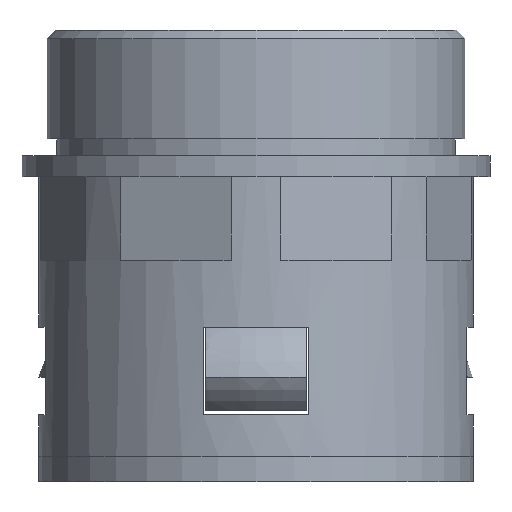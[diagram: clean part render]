
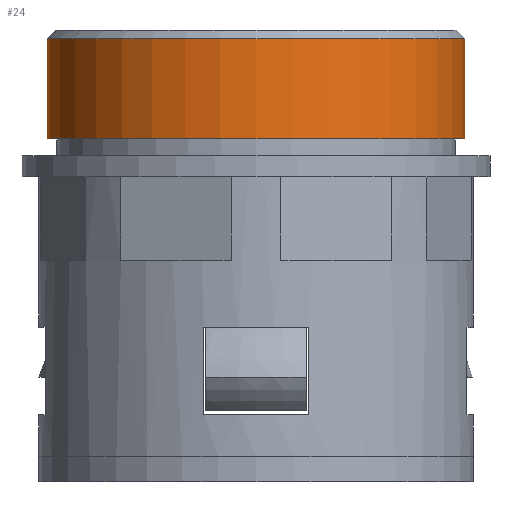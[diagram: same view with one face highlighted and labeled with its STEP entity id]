
A CAD part, front view. The second image highlights one B-rep face of the part: STEP entity #24.
In plain terms, the highlighted cylindrical face has radius 25 mm (diameter 50 mm), a partial arc.
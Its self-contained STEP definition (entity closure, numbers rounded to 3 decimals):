
#10 = ORIENTED_EDGE ( 'NONE', *, *, #38, .T. ) ;
#18 = ORIENTED_EDGE ( 'NONE', *, *, #3559, .T. ) ;
#24 = ADVANCED_FACE ( 'NONE', ( #3782 ), #3798, .T. ) ;
#30 = EDGE_CURVE ( 'NONE', #3542, #3554, #3841, .T. ) ;
#36 = ORIENTED_EDGE ( 'NONE', *, *, #30, .T. ) ;
#38 = EDGE_CURVE ( 'NONE', #3441, #3442, #3869, .T. ) ;
#59 = ORIENTED_EDGE ( 'NONE', *, *, #3549, .F. ) ;
#64 = EDGE_LOOP ( 'NONE', ( #59, #10, #18, #36 ) ) ;
#1296 = CARTESIAN_POINT ( 'NONE',  ( -25., 0., 15. ) ) ;
#1300 = VECTOR ( 'NONE', #1350, 1000. ) ;
#1307 = CARTESIAN_POINT ( 'NONE',  ( 25., 0., 2. ) ) ;
#1309 = LINE ( 'NONE', #1296, #1300 ) ;
#1310 = DIRECTION ( 'NONE',  ( 0., 0., -1. ) ) ;
#1311 = VECTOR ( 'NONE', #1310, 1000. ) ;
#1315 = LINE ( 'NONE', #1321, #1311 ) ;
#1321 = CARTESIAN_POINT ( 'NONE',  ( 25., 0., 15. ) ) ;
#1350 = DIRECTION ( 'NONE',  ( 0., 0., -1. ) ) ;
#3441 = VERTEX_POINT ( 'NONE', #6595 ) ;
#3442 = VERTEX_POINT ( 'NONE', #6590 ) ;
#3542 = VERTEX_POINT ( 'NONE', #5480 ) ;
#3549 = EDGE_CURVE ( 'NONE', #3441, #3554, #1315, .T. ) ;
#3554 = VERTEX_POINT ( 'NONE', #1307 ) ;
#3559 = EDGE_CURVE ( 'NONE', #3442, #3542, #1309, .T. ) ;
#3780 = CARTESIAN_POINT ( 'NONE',  ( 0., 0., 2. ) ) ;
#3782 = FACE_OUTER_BOUND ( 'NONE', #64, .T. ) ;
#3788 = CARTESIAN_POINT ( 'NONE',  ( 0., 0., 15. ) ) ;
#3789 = AXIS2_PLACEMENT_3D ( 'NONE', #3788, #3839, #3838 ) ;
#3798 = CYLINDRICAL_SURFACE ( 'NONE', #3789, 25. ) ;
#3823 = DIRECTION ( 'NONE',  ( 1., 0., 0. ) ) ;
#3824 = DIRECTION ( 'NONE',  ( 0., 0., 1. ) ) ;
#3825 = AXIS2_PLACEMENT_3D ( 'NONE', #3780, #3824, #3823 ) ;
#3838 = DIRECTION ( 'NONE',  ( -1., 0., 0. ) ) ;
#3839 = DIRECTION ( 'NONE',  ( 0., 0., -1. ) ) ;
#3841 = CIRCLE ( 'NONE', #3825, 25. ) ;
#3857 = DIRECTION ( 'NONE',  ( 1., 0., 0. ) ) ;
#3858 = DIRECTION ( 'NONE',  ( 0., 0., -1. ) ) ;
#3859 = AXIS2_PLACEMENT_3D ( 'NONE', #3868, #3858, #3857 ) ;
#3868 = CARTESIAN_POINT ( 'NONE',  ( 0., 0., 14. ) ) ;
#3869 = CIRCLE ( 'NONE', #3859, 25. ) ;
#5480 = CARTESIAN_POINT ( 'NONE',  ( -25., 0., 2. ) ) ;
#6590 = CARTESIAN_POINT ( 'NONE',  ( -25., 0., 14. ) ) ;
#6595 = CARTESIAN_POINT ( 'NONE',  ( 25., 0., 14. ) ) ;
